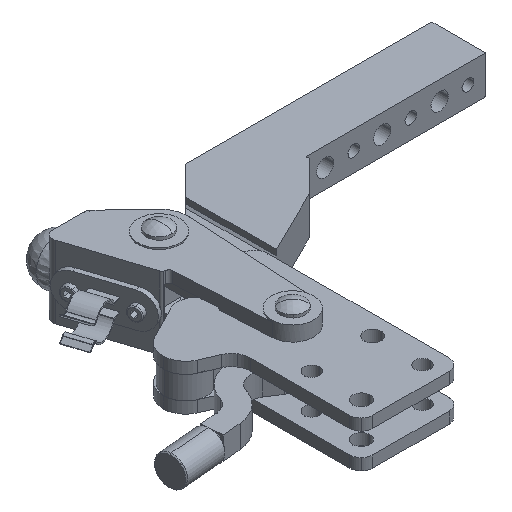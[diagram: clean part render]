
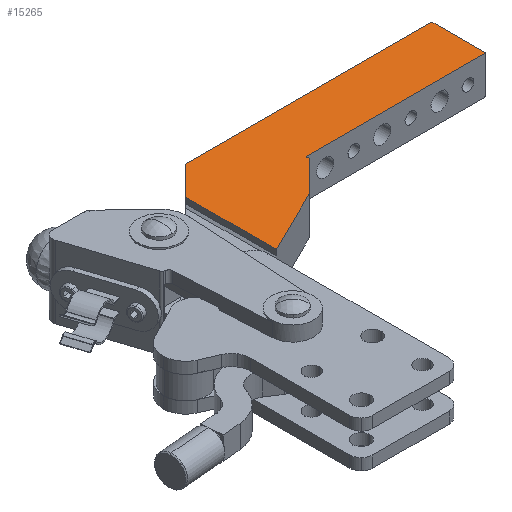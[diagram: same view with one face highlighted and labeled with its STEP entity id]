
A CAD part, isometric view. The second image highlights one B-rep face of the part: STEP entity #15265.
In plain terms, the highlighted planar face has unit normal (0, 0, 1).
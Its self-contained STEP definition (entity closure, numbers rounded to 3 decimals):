
#14938=CARTESIAN_POINT('',(-21.911,-22.837,-2.8));
#14939=VERTEX_POINT('',#14938);
#14946=CARTESIAN_POINT('',(-21.911,24.536,-2.8));
#14947=VERTEX_POINT('',#14946);
#14948=CARTESIAN_POINT('',(-21.911,24.536,-2.8));
#14949=DIRECTION('',(0.,-1.,0.));
#14950=VECTOR('',#14949,47.373);
#14951=LINE('',#14948,#14950);
#14952=EDGE_CURVE('',#14947,#14939,#14951,.T.);
#15183=CARTESIAN_POINT('',(-6.911,39.536,-2.8));
#15184=VERTEX_POINT('',#15183);
#15185=CARTESIAN_POINT('',(-21.911,24.536,-2.8));
#15186=DIRECTION('',(0.707,0.707,0.));
#15187=VECTOR('',#15186,21.213);
#15188=LINE('',#15185,#15187);
#15189=EDGE_CURVE('',#14947,#15184,#15188,.T.);
#15210=CARTESIAN_POINT('',(-90.662,-44.177,-2.8));
#15211=DIRECTION('',(0.0,0.0,1.0));
#15212=DIRECTION('',(1.,0.,0.0));
#15213=AXIS2_PLACEMENT_3D('',#15210,#15211,#15212);
#15214=PLANE('',#15213);
#15215=ORIENTED_EDGE('',*,*,#14952,.T.);
#15216=CARTESIAN_POINT('',(12.544,-6.009,-2.8));
#15217=VERTEX_POINT('',#15216);
#15218=CARTESIAN_POINT('',(12.544,-6.009,-2.8));
#15219=DIRECTION('',(-0.899,-0.439,0.));
#15220=VECTOR('',#15219,38.345);
#15221=LINE('',#15218,#15220);
#15222=EDGE_CURVE('',#15217,#14939,#15221,.T.);
#15223=ORIENTED_EDGE('',*,*,#15222,.F.);
#15224=CARTESIAN_POINT('',(28.089,9.536,-2.8));
#15225=VERTEX_POINT('',#15224);
#15226=CARTESIAN_POINT('',(28.089,9.536,-2.8));
#15227=DIRECTION('',(-0.707,-0.707,0.));
#15228=VECTOR('',#15227,21.984);
#15229=LINE('',#15226,#15228);
#15230=EDGE_CURVE('',#15225,#15217,#15229,.T.);
#15231=ORIENTED_EDGE('',*,*,#15230,.F.);
#15232=CARTESIAN_POINT('',(28.089,11.536,-2.8));
#15233=VERTEX_POINT('',#15232);
#15234=CARTESIAN_POINT('',(28.089,11.536,-2.8));
#15235=DIRECTION('',(0.,-1.,0.0));
#15236=VECTOR('',#15235,2.);
#15237=LINE('',#15234,#15236);
#15238=EDGE_CURVE('',#15233,#15225,#15237,.T.);
#15239=ORIENTED_EDGE('',*,*,#15238,.F.);
#15240=CARTESIAN_POINT('',(122.089,11.536,-2.8));
#15241=VERTEX_POINT('',#15240);
#15242=CARTESIAN_POINT('',(122.089,11.536,-2.8));
#15243=DIRECTION('',(-1.,0.,0.));
#15244=VECTOR('',#15243,94.);
#15245=LINE('',#15242,#15244);
#15246=EDGE_CURVE('',#15241,#15233,#15245,.T.);
#15247=ORIENTED_EDGE('',*,*,#15246,.F.);
#15248=CARTESIAN_POINT('',(122.089,39.536,-2.8));
#15249=VERTEX_POINT('',#15248);
#15250=CARTESIAN_POINT('',(122.089,39.536,-2.8));
#15251=DIRECTION('',(0.,-1.,0.));
#15252=VECTOR('',#15251,28.);
#15253=LINE('',#15250,#15252);
#15254=EDGE_CURVE('',#15249,#15241,#15253,.T.);
#15255=ORIENTED_EDGE('',*,*,#15254,.F.);
#15256=CARTESIAN_POINT('',(-6.911,39.536,-2.8));
#15257=DIRECTION('',(1.0,0.,0.));
#15258=VECTOR('',#15257,129.0);
#15259=LINE('',#15256,#15258);
#15260=EDGE_CURVE('',#15184,#15249,#15259,.T.);
#15261=ORIENTED_EDGE('',*,*,#15260,.F.);
#15262=ORIENTED_EDGE('',*,*,#15189,.F.);
#15263=EDGE_LOOP('',(#15215,#15223,#15231,#15239,#15247,#15255,#15261,#15262));
#15264=FACE_OUTER_BOUND('',#15263,.T.);
#15265=ADVANCED_FACE('',(#15264),#15214,.T.);
